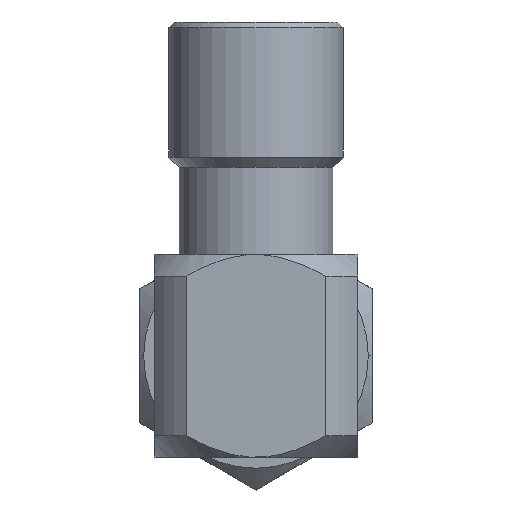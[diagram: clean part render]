
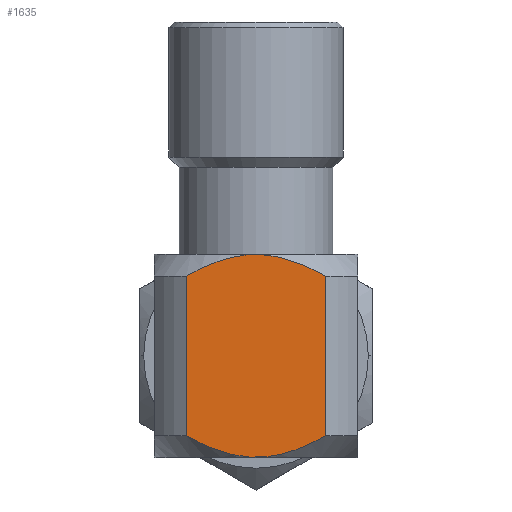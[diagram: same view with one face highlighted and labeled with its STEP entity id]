
A CAD part, left-side view. The second image highlights one B-rep face of the part: STEP entity #1635.
In plain terms, the highlighted planar face has unit normal (-1, 0, 0).
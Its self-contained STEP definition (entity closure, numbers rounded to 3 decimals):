
#4 = ORIENTED_EDGE ( 'NONE', *, *, #1169, .T. ) ;
#35 = DIRECTION ( 'NONE',  ( 1., 0., 0. ) ) ;
#67 = CARTESIAN_POINT ( 'NONE',  ( 0., 3.163, 8.019 ) ) ;
#83 = CARTESIAN_POINT ( 'NONE',  ( 0., 1.971, 7.578 ) ) ;
#88 = CARTESIAN_POINT ( 'NONE',  ( 0., 2.552, 1.409 ) ) ;
#95 = CARTESIAN_POINT ( 'NONE',  ( 0., 2.954, 1.274 ) ) ;
#224 = CARTESIAN_POINT ( 'NONE',  ( 0., 5.646, 1.476 ) ) ;
#226 = CARTESIAN_POINT ( 'NONE',  ( 0., 4.425, 8.092 ) ) ;
#231 = CARTESIAN_POINT ( 'NONE',  ( 0., 6.398, 7.369 ) ) ;
#266 = B_SPLINE_CURVE_WITH_KNOTS ( 'NONE', 3,
 ( #623, #1558, #224, #764, #917, #1042, #1687, #369, #519, #1048, #95, #88, #1278, #501, #1697, #1468 ),
 .UNSPECIFIED., .F., .F.,
 ( 4, 2, 2, 2, 2, 2, 2, 4 ),
 ( 0.007, 0.008, 0.008, 0.009, 0.01, 0.01, 0.011, 0.012 ),
 .UNSPECIFIED. ) ;
#327 = CARTESIAN_POINT ( 'NONE',  ( 0., 6.398, 1.869 ) ) ;
#336 = CARTESIAN_POINT ( 'NONE',  ( 0., 6.398, 8.119 ) ) ;
#346 = CARTESIAN_POINT ( 'NONE',  ( 0., 4.842, 8.017 ) ) ;
#353 = CARTESIAN_POINT ( 'NONE',  ( 0., 6.215, 7.472 ) ) ;
#369 = CARTESIAN_POINT ( 'NONE',  ( 0., 3.789, 1.126 ) ) ;
#402 = B_SPLINE_CURVE_WITH_KNOTS ( 'NONE', 3,
 ( #1262, #83, #894, #1417, #67, #486, #1523, #739, #226, #346, #1256, #1117, #1674, #612, #353, #759 ),
 .UNSPECIFIED., .F., .F.,
 ( 4, 2, 2, 2, 2, 2, 2, 4 ),
 ( 0.007, 0.008, 0.008, 0.009, 0.01, 0.01, 0.011, 0.012 ),
 .UNSPECIFIED. ) ;
#483 = ORIENTED_EDGE ( 'NONE', *, *, #1455, .T. ) ;
#486 = CARTESIAN_POINT ( 'NONE',  ( 0., 3.579, 8.092 ) ) ;
#501 = CARTESIAN_POINT ( 'NONE',  ( 0., 1.971, 1.668 ) ) ;
#519 = CARTESIAN_POINT ( 'NONE',  ( 0., 3.575, 1.146 ) ) ;
#612 = CARTESIAN_POINT ( 'NONE',  ( 0., 6.029, 7.569 ) ) ;
#614 = ORIENTED_EDGE ( 'NONE', *, *, #1157, .T. ) ;
#618 = DIRECTION ( 'NONE',  ( 0., 0., 1. ) ) ;
#623 = CARTESIAN_POINT ( 'NONE',  ( 0., 6.398, 1.869 ) ) ;
#639 = EDGE_LOOP ( 'NONE', ( #483, #880, #4, #614 ) ) ;
#649 = VERTEX_POINT ( 'NONE', #231 ) ;
#662 = EDGE_CURVE ( 'NONE', #1703, #911, #266, .T. ) ;
#678 = FACE_OUTER_BOUND ( 'NONE', #639, .T. ) ;
#717 = AXIS2_PLACEMENT_3D ( 'NONE', #956, #35, #822 ) ;
#739 = CARTESIAN_POINT ( 'NONE',  ( 0., 4.211, 8.111 ) ) ;
#749 = DIRECTION ( 'NONE',  ( 0., 0., -1. ) ) ;
#759 = CARTESIAN_POINT ( 'NONE',  ( 0., 6.398, 7.369 ) ) ;
#764 = CARTESIAN_POINT ( 'NONE',  ( 0., 5.045, 1.274 ) ) ;
#791 = CARTESIAN_POINT ( 'NONE',  ( 0., 1.602, 7.369 ) ) ;
#822 = DIRECTION ( 'NONE',  ( 0., -1., 0. ) ) ;
#880 = ORIENTED_EDGE ( 'NONE', *, *, #662, .T. ) ;
#894 = CARTESIAN_POINT ( 'NONE',  ( 0., 2.354, 7.762 ) ) ;
#911 = VERTEX_POINT ( 'NONE', #1264 ) ;
#917 = CARTESIAN_POINT ( 'NONE',  ( 0., 4.837, 1.219 ) ) ;
#956 = CARTESIAN_POINT ( 'NONE',  ( 0., 4., 4.619 ) ) ;
#1042 = CARTESIAN_POINT ( 'NONE',  ( 0., 4.421, 1.145 ) ) ;
#1048 = CARTESIAN_POINT ( 'NONE',  ( 0., 3.158, 1.22 ) ) ;
#1081 = VECTOR ( 'NONE', #618, 1000. ) ;
#1117 = CARTESIAN_POINT ( 'NONE',  ( 0., 5.448, 7.829 ) ) ;
#1142 = CARTESIAN_POINT ( 'NONE',  ( 0., 1.602, 8.119 ) ) ;
#1149 = LINE ( 'NONE', #336, #1412 ) ;
#1157 = EDGE_CURVE ( 'NONE', #1537, #649, #402, .T. ) ;
#1169 = EDGE_CURVE ( 'NONE', #911, #1537, #1269, .T. ) ;
#1256 = CARTESIAN_POINT ( 'NONE',  ( 0., 5.046, 7.963 ) ) ;
#1262 = CARTESIAN_POINT ( 'NONE',  ( 0., 1.602, 7.369 ) ) ;
#1264 = CARTESIAN_POINT ( 'NONE',  ( 0., 1.602, 1.869 ) ) ;
#1269 = LINE ( 'NONE', #1142, #1081 ) ;
#1278 = CARTESIAN_POINT ( 'NONE',  ( 0., 2.354, 1.49 ) ) ;
#1412 = VECTOR ( 'NONE', #749, 1000. ) ;
#1417 = CARTESIAN_POINT ( 'NONE',  ( 0., 2.955, 7.964 ) ) ;
#1455 = EDGE_CURVE ( 'NONE', #649, #1703, #1149, .T. ) ;
#1468 = CARTESIAN_POINT ( 'NONE',  ( 0., 1.602, 1.869 ) ) ;
#1523 = CARTESIAN_POINT ( 'NONE',  ( 0., 3.789, 8.111 ) ) ;
#1537 = VERTEX_POINT ( 'NONE', #791 ) ;
#1558 = CARTESIAN_POINT ( 'NONE',  ( 0., 6.029, 1.66 ) ) ;
#1600 = PLANE ( 'NONE',  #717 ) ;
#1635 = ADVANCED_FACE ( 'NONE', ( #678 ), #1600, .F. ) ;
#1674 = CARTESIAN_POINT ( 'NONE',  ( 0., 5.646, 7.747 ) ) ;
#1687 = CARTESIAN_POINT ( 'NONE',  ( 0., 4.211, 1.126 ) ) ;
#1697 = CARTESIAN_POINT ( 'NONE',  ( 0., 1.785, 1.766 ) ) ;
#1703 = VERTEX_POINT ( 'NONE', #327 ) ;
